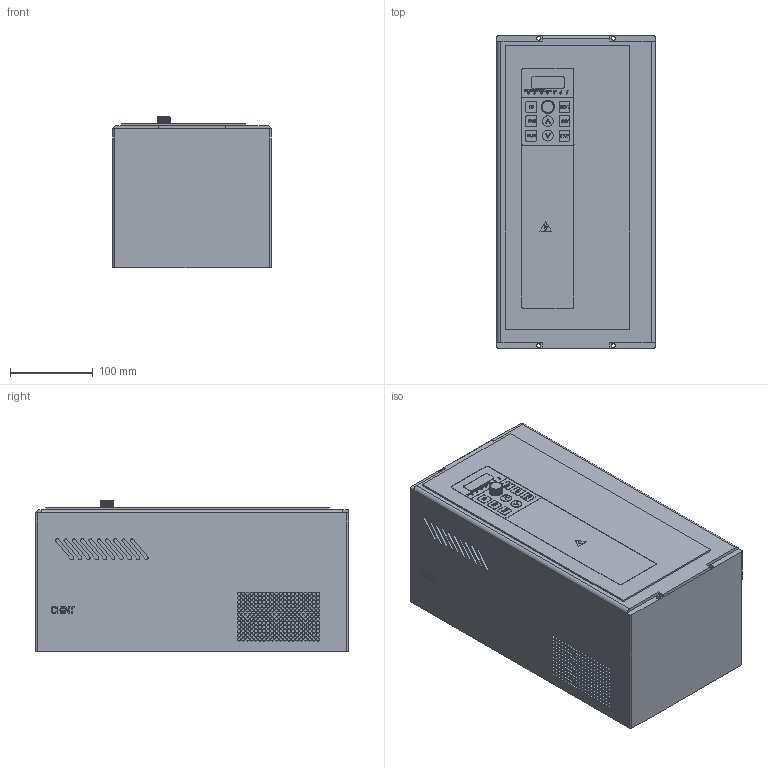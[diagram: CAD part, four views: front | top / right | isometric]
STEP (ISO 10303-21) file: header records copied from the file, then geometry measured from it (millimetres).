
FILE_DESCRIPTION(/* description */ (''),/* implementation_level */ '2;1');
FILE_NAME(/* name */ 'D:\2 ДОГОВОР ЧИНТ\Выслать\CHINT 10.03.2019\NVF2G\NVF2G-11 TS4(15 PS4).stp',/* time_stamp */ '2019-03-11T18:39:43+03:00',/* author */ ('RSagdiev'),/* organization */ (''),/* preprocessor_version */ 'ST-DEVELOPER v16.5',/* originating_system */ 'Autodesk Inventor 2017',/* authorisation */ '');
FILE_SCHEMA (('AUTOMOTIVE_DESIGN { 1 0 10303 214 3 1 1 }'));
Length unit declared in the file: millimetre
Products named in the file (1): NVF2G-11 TS4(15 PS4)
Bounding box: 191.1 x 378 x 183 mm (x, y, z)
Volume: 12403860.4 mm3; surface area: 663281.9 mm2
Topology: 15 solids, 15 shells, 1643 faces, 3858 edges, 2572 vertices
Faces by surface type: plane 1044, cylinder 316, bspline 193, cone 90
Full cylindrical faces by diameter (mm): 2 x7, 4 x240, 5 x4, 13 x3
Entity records: 47341 total; most frequent: CARTESIAN_POINT 11347, ORIENTED_EDGE 7208, DIRECTION 6752, EDGE_CURVE 3604, VERTEX_POINT 2572, AXIS2_PLACEMENT_3D 2263, EDGE_LOOP 2232, LINE 2226
